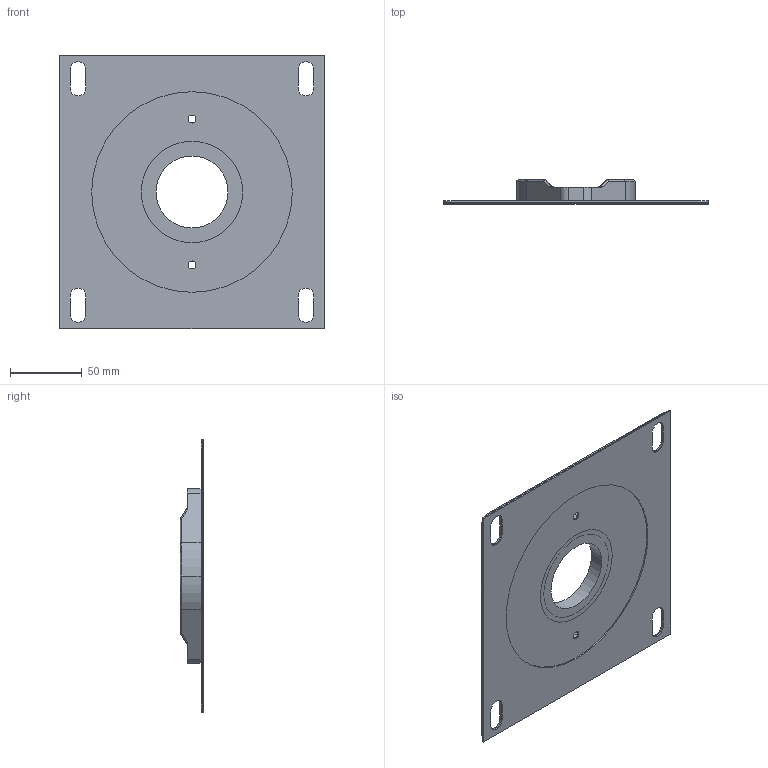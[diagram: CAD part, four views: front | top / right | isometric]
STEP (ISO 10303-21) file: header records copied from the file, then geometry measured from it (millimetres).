
FILE_DESCRIPTION (( 'STEP AP203' ), '1' );
FILE_NAME ('SLF-200T.STEP', '2015-01-21T14:44:32', ( '' ), ( '' ), 'SwSTEP 2.0', 'SolidWorks 2014', '' );
FILE_SCHEMA (( 'CONFIG_CONTROL_DESIGN' ));
Length unit declared in the file: inch
Products named in the file (1): SLF-200T
Bounding box: 184.15 x 16.64 x 190.5 mm (x, y, z)
Volume: 98773 mm3; surface area: 122846.3 mm2
Topology: 4 solids, 4 shells, 155 faces, 405 edges, 254 vertices
Faces by surface type: cylinder 80, plane 52, bspline 8, torus 7, cone 4, sphere 4
Entity records: 5093 total; most frequent: CARTESIAN_POINT 1131, DIRECTION 834, ORIENTED_EDGE 802, EDGE_CURVE 401, AXIS2_PLACEMENT_3D 309, VERTEX_POINT 254, VECTOR 216, LINE 216
